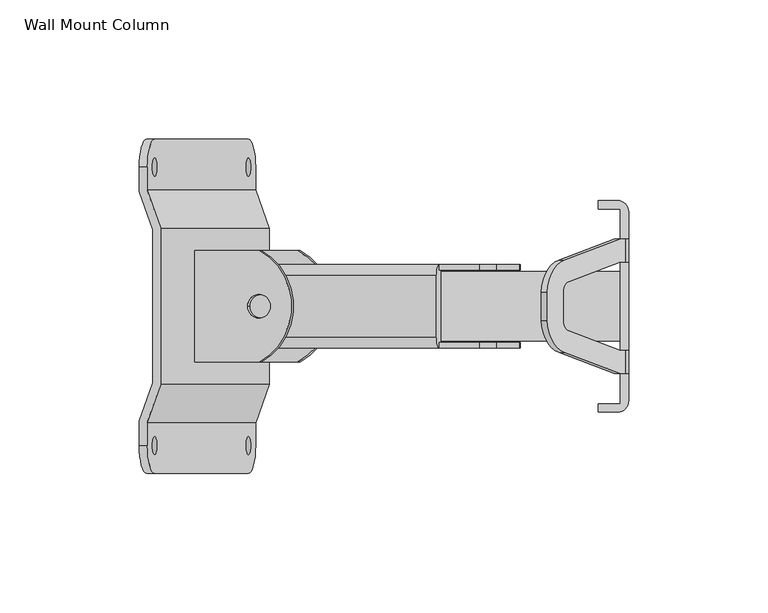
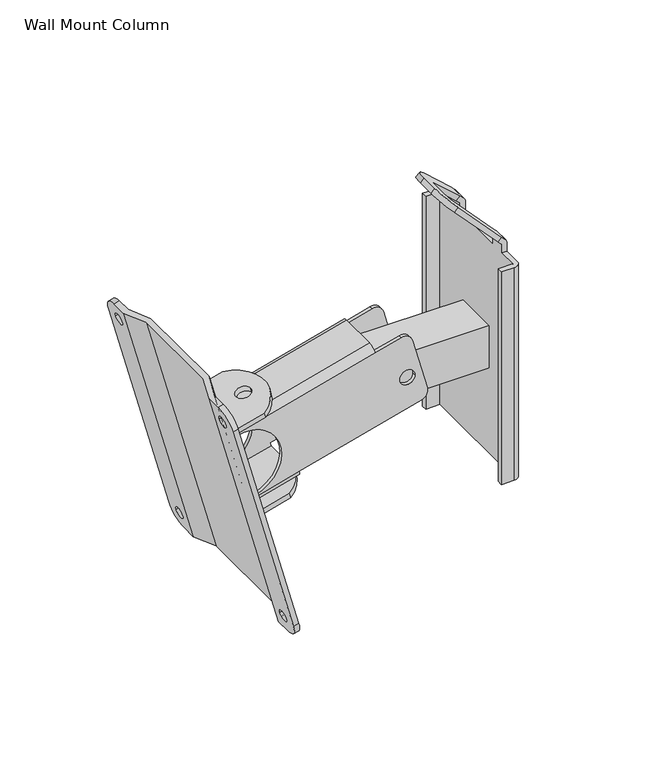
"""IFC4 building model written with IfcOpenShell, lengths in millimetres: proxy geometry, d&b xC-Series Wall Mount Column : Wall Mount Column."""

from ifc_helpers import new_model, si_unit, point, frame, frame_2d, origin, place, context, project, spatial, polyline, circle_curve, trimmed, segment, composite_curve, outline, extrude, source, transform, mapped, element, save
from ifc_brep_helpers import plane_surface, cylinder_surface, revolved_surface, advanced_brep


def wall_mount_column_0cf47434(model_context):
    return source(origin(), model_context, "Body", "SolidModel", [
        advanced_brep(
        [(7.4271108, 13.0, -16.1272448), (10.9626447, 13.0, -10.0035205), (2.6804352, 13.0, 20.906106), (-3.4432891, 13.0, 24.4416399), (-17.9321765, 13.0, 20.5593542), (-17.4145384, 13.0, 18.6275026), (-88.6563997, 13.0, -0.4616966), (-84.5946618, 13.0, -39.7491283), (-83.8182046, 13.0, -42.6469058), (-59.670059, 13.0, -36.1764296), (-60.1876971, 13.0, -34.244578), (4.2355947, 13.0, 0.0), (-4.2355947, 13.0, 0.0), (-84.3358427, 15.0, -40.7150541), (-84.5946618, 15.0, -39.7491283), (-94.9474236, 15.0, -1.1120952), (-95.2062426, 15.0, -0.1461694), (-17.9321765, 15.0, 20.5593542), (-3.4432891, 15.0, 24.4416399), (2.6804352, 15.0, 20.906106), (10.9626447, 15.0, -10.0035205), (7.4271108, 15.0, -16.1272448), (-60.1876971, 15.0, -34.244578), (4.2355947, 15.0, 0.0), (-4.2355947, 15.0, 0.0), (-94.9474236, 13.0, -1.1120952), (-84.5946618, -13.0, -39.7491283), (-88.6563997, -13.0, -0.4616966), (-17.4145384, -13.0, 18.6275026), (-17.9321765, -13.0, 20.5593542), (-3.4432891, -13.0, 24.4416399), (2.6804352, -13.0, 20.906106), (10.9626447, -13.0, -10.0035205), (7.4271108, -13.0, -16.1272448), (-60.1876971, -13.0, -34.244578), (-59.670059, -13.0, -36.1764296), (-83.8182046, -13.0, -42.6469058), (4.2355947, -13.0, 0.0), (-4.2355947, -13.0, 0.0), (7.4271108, -15.0, -16.1272448), (10.9626447, -15.0, -10.0035205), (2.6804352, -15.0, 20.906106), (-3.4432891, -15.0, 24.4416399), (-17.9321765, -15.0, 20.5593542), (-95.2062426, -15.0, -0.1461694), (-94.9474236, -15.0, -1.1120952), (-84.5946618, -15.0, -39.7491283), (-84.3358427, -15.0, -40.7150541), (-60.1876971, -15.0, -34.244578), (4.2355947, -15.0, 0.0), (-4.2355947, -15.0, 0.0), (-94.9474236, -13.0, -1.1120952), (-83.3005665, 11.0, -44.5787574), (-83.3005665, -11.0, -44.5787574), (-96.2415188, 11.0, 3.7175339), (-94.6886045, 13.0, -2.0780211), (-94.6886045, -13.0, -2.0780211), (-96.2415188, -11.0, 3.7175339), (-18.9674527, 11.0, 24.4230575), (-18.9674527, -11.0, 24.4230575), (-59.1524209, -11.0, -38.1082813), (-59.1524209, 11.0, -38.1082813)],
        [
            (0, 1, circle_curve(frame((6.1330155, 13.0, -11.2976157), z_axis=(0.0, -1.0, 0.0), x_axis=(-1.0, 0.0, 0.0)), 5.0)),
            (1, 2),
            (2, 3, circle_curve(frame((-2.1491939, 13.0, 19.6120107), z_axis=(0.0, -1.0, 0.0), x_axis=(-1.0, 0.0, 0.0)), 5.0)),
            (3, 4),
            (4, 5),
            (5, 6),
            (6, 7, circle_curve(frame((-89.7710427, 13.0, -20.4306118), z_axis=(0.0, 1.0, 0.0), x_axis=(-1.0, 0.0, 0.0)), 20.0)),
            (7, 8),
            (8, 9),
            (9, 10),
            (10, 0),
            (11, 12, circle_curve(frame((0.0, 13.0, 0.0), z_axis=(0.0, 1.0, 0.0), x_axis=(-1.0, 0.0, 0.0)), 4.2355947)),
            (12, 11, circle_curve(frame((0.0, 13.0, 0.0), z_axis=(0.0, 1.0, 0.0), x_axis=(-1.0, 0.0, 0.0)), 4.2355947)),
            (13, 14),
            (14, 15, circle_curve(frame((-89.7710427, 15.0, -20.4306118), z_axis=(0.0, -1.0, 0.0), x_axis=(-1.0, 0.0, 0.0)), 20.0)),
            (15, 16),
            (16, 17),
            (17, 18),
            (18, 19, circle_curve(frame((-2.1491939, 15.0, 19.6120107), z_axis=(0.0, 1.0, 0.0), x_axis=(-1.0, 0.0, 0.0)), 5.0)),
            (19, 20),
            (20, 21, circle_curve(frame((6.1330155, 15.0, -11.2976157), z_axis=(0.0, 1.0, 0.0), x_axis=(-1.0, 0.0, 0.0)), 5.0)),
            (21, 22),
            (22, 13),
            (23, 24, circle_curve(frame((0.0, 15.0, 0.0), z_axis=(0.0, -1.0, 0.0), x_axis=(-1.0, 0.0, 0.0)), 4.2355947)),
            (24, 23, circle_curve(frame((0.0, 15.0, 0.0), z_axis=(0.0, -1.0, 0.0), x_axis=(-1.0, 0.0, 0.0)), 4.2355947)),
            (21, 0),
            (10, 22),
            (20, 1),
            (19, 2),
            (18, 3),
            (17, 4),
            (14, 7),
            (6, 25, circle_curve(frame((-89.7710427, 13.0, -20.4306118), z_axis=(0.0, -1.0, 0.0), x_axis=(-1.0, 0.0, 0.0)), 20.0)),
            (25, 15),
            (26, 27, circle_curve(frame((-89.7710427, -13.0, -20.4306118), z_axis=(0.0, -1.0, 0.0), x_axis=(-1.0, 0.0, 0.0)), 20.0)),
            (27, 28),
            (28, 29),
            (29, 30),
            (30, 31, circle_curve(frame((-2.1491939, -13.0, 19.6120107), z_axis=(0.0, 1.0, 0.0), x_axis=(-1.0, 0.0, 0.0)), 5.0)),
            (31, 32),
            (32, 33, circle_curve(frame((6.1330155, -13.0, -11.2976157), z_axis=(0.0, 1.0, 0.0), x_axis=(-1.0, 0.0, 0.0)), 5.0)),
            (33, 34),
            (34, 35),
            (35, 36),
            (36, 26),
            (37, 38, circle_curve(frame((0.0, -13.0, 0.0), z_axis=(0.0, -1.0, 0.0), x_axis=(-1.0, 0.0, 0.0)), 4.2355947)),
            (38, 37, circle_curve(frame((0.0, -13.0, 0.0), z_axis=(0.0, -1.0, 0.0), x_axis=(-1.0, 0.0, 0.0)), 4.2355947)),
            (39, 40, circle_curve(frame((6.1330155, -15.0, -11.2976157), z_axis=(0.0, -1.0, 0.0), x_axis=(-1.0, 0.0, 0.0)), 5.0)),
            (40, 41),
            (41, 42, circle_curve(frame((-2.1491939, -15.0, 19.6120107), z_axis=(0.0, -1.0, 0.0), x_axis=(-1.0, 0.0, 0.0)), 5.0)),
            (42, 43),
            (43, 44),
            (44, 45),
            (45, 46, circle_curve(frame((-89.7710427, -15.0, -20.4306118), z_axis=(0.0, 1.0, 0.0), x_axis=(-1.0, 0.0, 0.0)), 20.0)),
            (46, 47),
            (47, 48),
            (48, 39),
            (49, 50, circle_curve(frame((0.0, -15.0, 0.0), z_axis=(0.0, 1.0, 0.0), x_axis=(-1.0, 0.0, 0.0)), 4.2355947)),
            (50, 49, circle_curve(frame((0.0, -15.0, 0.0), z_axis=(0.0, 1.0, 0.0), x_axis=(-1.0, 0.0, 0.0)), 4.2355947)),
            (33, 39),
            (48, 34),
            (32, 40),
            (31, 41),
            (30, 42),
            (29, 43),
            (45, 51),
            (51, 27, circle_curve(frame((-89.7710427, -13.0, -20.4306118), z_axis=(0.0, 1.0, 0.0), x_axis=(-1.0, 0.0, 0.0)), 20.0)),
            (26, 46),
            (36, 8),
            (13, 52, circle_curve(frame((-84.3358427, 11.0, -40.7150541), z_axis=(-0.9659258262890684, 0.0, -0.2588190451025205), x_axis=(0.0, -1.0, 0.0)), 4.0)),
            (52, 53),
            (53, 47, circle_curve(frame((-84.3358427, -11.0, -40.7150541), z_axis=(-0.9659258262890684, 0.0, -0.2588190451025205), x_axis=(0.0, -1.0, 0.0)), 4.0)),
            (11, 23),
            (24, 12),
            (37, 49),
            (50, 38),
            (54, 16, circle_curve(frame((-95.2062426, 11.0, -0.1461694), z_axis=(-0.9659258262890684, 0.0, -0.2588190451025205), x_axis=(0.0, -1.0, 0.0)), 4.0)),
            (25, 55),
            (55, 56),
            (56, 51),
            (44, 57, circle_curve(frame((-95.2062426, -11.0, -0.1461694), z_axis=(-0.9659258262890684, 0.0, -0.2588190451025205), x_axis=(0.0, -1.0, 0.0)), 4.0)),
            (57, 54),
            (58, 59),
            (59, 43, circle_curve(frame((-17.9321765, -11.0, 20.5593542), z_axis=(0.9659258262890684, 0.0, 0.2588190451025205), x_axis=(0.0, -1.0, 0.0)), 4.0)),
            (28, 5),
            (17, 58, circle_curve(frame((-17.9321765, 11.0, 20.5593542), z_axis=(0.9659258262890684, 0.0, 0.2588190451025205), x_axis=(0.0, -1.0, 0.0)), 4.0)),
            (57, 59),
            (58, 54),
            (56, 27),
            (55, 6),
            (48, 60, circle_curve(frame((-60.1876971, -11.0, -34.244578), z_axis=(0.9659258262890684, 0.0, 0.2588190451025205), x_axis=(0.0, -1.0, 0.0)), 4.0)),
            (60, 61),
            (61, 22, circle_curve(frame((-60.1876971, 11.0, -34.244578), z_axis=(0.9659258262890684, 0.0, 0.2588190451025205), x_axis=(0.0, -1.0, 0.0)), 4.0)),
            (9, 35),
            (53, 60),
            (52, 61),
        ],
        [
            plane_surface(frame((7.4271108, 13.0, -16.1272448), z_axis=(0.0, -1.0000000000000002, 0.0), x_axis=(0.9659258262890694, 0.0, 0.25881904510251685))),
            plane_surface(frame((7.4271108, 15.0, -16.1272448), z_axis=(0.0, 1.0000000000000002, 0.0), x_axis=(-0.9659258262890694, 0.0, -0.25881904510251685))),
            plane_surface(frame((-84.3358427, 13.0, -40.7150541), z_axis=(0.25881904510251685, 0.0, -0.9659258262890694), x_axis=(0.0, 1.0, 0.0))),
            cylinder_surface(frame((6.1330155, 15.0, -11.2976157), z_axis=(0.0, -1.0, 0.0), x_axis=(-1.0, 0.0, 0.0)), 5.0),
            plane_surface(frame((10.9626447, 13.0, -10.0035205), z_axis=(0.965925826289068, 0.0, 0.25881904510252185), x_axis=(0.0, 1.0, 0.0))),
            cylinder_surface(frame((-2.1491939, 15.0, 19.6120107), z_axis=(0.0, -1.0, 0.0), x_axis=(-1.0, 0.0, 0.0)), 5.0),
            plane_surface(frame((-3.4432891, 13.0, 24.4416399), z_axis=(-0.25881904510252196, 0.0, 0.9659258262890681), x_axis=(0.0, 1.0, 0.0))),
            revolved_surface(polyline([(-109.7710427, 15.0, -20.4306118), (-109.7710427, 13.0, -20.4306118)]), (-89.7710427, 15.0, -20.4306118), (0.0, 1.0, 0.0)),
            plane_surface(frame((-84.3358427, -13.0, -40.7150541), z_axis=(0.0, 1.0000000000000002, 0.0), x_axis=(-0.2588190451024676, 0.0, 0.9659258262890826))),
            plane_surface(frame((-84.3358427, -15.0, -40.7150541), z_axis=(0.0, -1.0000000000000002, 0.0), x_axis=(0.2588190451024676, 0.0, -0.9659258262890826))),
            plane_surface(frame((7.4271108, -13.0, -16.1272448), z_axis=(0.2588190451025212, 0.0, -0.9659258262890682), x_axis=(0.0, -1.0, 0.0))),
            cylinder_surface(frame((6.1330155, -15.0, -11.2976157), z_axis=(0.0, 1.0, 0.0), x_axis=(-1.0, 0.0, 0.0)), 5.0),
            plane_surface(frame((2.6804352, -13.0, 20.906106), z_axis=(0.9659258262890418, 0.0, 0.25881904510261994), x_axis=(0.0, -1.0, 0.0))),
            cylinder_surface(frame((-2.1491939, -15.0, 19.6120107), z_axis=(0.0, 1.0, 0.0), x_axis=(-1.0, 0.0, 0.0)), 5.0),
            plane_surface(frame((-95.2062426, -13.0, -0.1461694), z_axis=(-0.2588190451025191, 0.0, 0.9659258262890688), x_axis=(0.0, -1.0, 0.0))),
            revolved_surface(polyline([(-109.7710427, -15.0, -20.4306118), (-109.7710427, -13.0, -20.4306118)]), (-89.7710427, -15.0, -20.4306118), (0.0, -1.0, 0.0)),
            plane_surface(frame((-84.3358427, -13.0, -40.7150541), z_axis=(-0.9659258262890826, 0.0, -0.2588190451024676), x_axis=(0.0, -1.0, 0.0))),
            revolved_surface(polyline([(-4.2355947, 15.0, 0.0), (-4.2355947, 13.0, 0.0)]), (0.0, 0.0, 0.0), (0.0, 1.0, 0.0)),
            revolved_surface(polyline([(-4.2355947, -15.0, 0.0), (-4.2355947, -13.0, 0.0)]), (0.0, 0.0, 0.0), (0.0, -1.0, 0.0)),
            plane_surface(frame((-96.2415188, -11.0, 3.7175339), z_axis=(-0.9659258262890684, 0.0, -0.2588190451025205), x_axis=(0.0, 1.0, 0.0))),
            plane_surface(frame((-18.9674527, -11.0, 24.4230575), z_axis=(0.9659258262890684, 0.0, 0.2588190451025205), x_axis=(0.0, -1.0, 0.0))),
            plane_surface(frame((-18.9674527, 11.0, 24.4230575), z_axis=(-0.2588190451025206, 0.0, 0.9659258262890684), x_axis=(-0.9659258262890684, 0.0, -0.2588190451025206))),
            cylinder_surface(frame((-95.2062426, -11.0, -0.1461694), z_axis=(0.9659258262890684, 0.0, 0.2588190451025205), x_axis=(0.0, -1.0, 0.0)), 4.0),
            plane_surface(frame((-17.9321765, -13.0, 20.5593542), z_axis=(0.0, -1.0000000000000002, 0.0), x_axis=(-0.9659258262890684, 0.0, -0.25881904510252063))),
            plane_surface(frame((-17.4145384, -13.0, 18.6275026), z_axis=(0.2588190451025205, 0.0, -0.9659258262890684), x_axis=(-0.9659258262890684, 0.0, -0.2588190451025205))),
            plane_surface(frame((-17.4145384, 13.0, 18.6275026), z_axis=(0.0, 1.0000000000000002, 0.0), x_axis=(-0.9659258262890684, 0.0, -0.2588190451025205))),
            cylinder_surface(frame((-95.2062426, 11.0, -0.1461694), z_axis=(0.9659258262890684, 0.0, 0.2588190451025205), x_axis=(0.0, -1.0, 0.0)), 4.0),
            plane_surface(frame((-60.1876971, -13.0, -34.244578), z_axis=(0.9659258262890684, 0.0, 0.2588190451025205), x_axis=(-0.2588190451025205, 0.0, 0.9659258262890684))),
            cylinder_surface(frame((-84.3358427, -11.0, -40.7150541), z_axis=(0.9659258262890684, 0.0, 0.2588190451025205), x_axis=(0.0, -1.0, 0.0)), 4.0),
            plane_surface(frame((-59.1524209, -11.0, -38.1082813), z_axis=(0.2588190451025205, 0.0, -0.9659258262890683), x_axis=(-0.9659258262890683, 0.0, -0.2588190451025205))),
            cylinder_surface(frame((-84.3358427, 11.0, -40.7150541), z_axis=(0.9659258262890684, 0.0, 0.2588190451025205), x_axis=(0.0, -1.0, 0.0)), 4.0),
            plane_surface(frame((-59.670059, 13.0, -36.1764296), z_axis=(-0.2588190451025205, 0.0, 0.9659258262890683), x_axis=(-0.9659258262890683, 0.0, -0.2588190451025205))),
        ],
        [
            (0, [[1, 2, 3, 4, 5, 6, 7, 8, 9, 10, 11], [12, 13]]),
            (1, [[14, 15, 16, 17, 18, 19, 20, 21, 22, 23], [24, 25]]),
            (2, [[26, -11, 27, -22]]),
            (3, [[-1, -26, -21, 28]]),
            (4, [[-2, -28, -20, 29]]),
            (5, [[-3, -29, -19, 30]]),
            (6, [[-30, -18, 31, -4]]),
            (7, [[-15, 32, -7, 33, 34]]),
            (8, [[35, 36, 37, 38, 39, 40, 41, 42, 43, 44, 45], [46, 47]]),
            (9, [[48, 49, 50, 51, 52, 53, 54, 55, 56, 57], [58, 59]]),
            (10, [[60, -57, 61, -42]]),
            (11, [[-41, 62, -48, -60]]),
            (12, [[-40, 63, -49, -62]]),
            (13, [[-39, 64, -50, -63]]),
            (14, [[-64, -38, 65, -51]]),
            (15, [[-54, 66, 67, -35, 68]]),
            (16, [[-45, 69, -8, -32, -14, 70, 71, 72, -55, -68]]),
            (17, [[-12, 73, -25, 74]]),
            (17, [[-13, -74, -24, -73]]),
            (18, [[-46, 75, -59, 76]]),
            (18, [[-47, -76, -58, -75]]),
            (19, [[77, -16, -34, 78, 79, 80, -66, -53, 81, 82]]),
            (20, [[83, 84, -65, -37, 85, -5, -31, 86]]),
            (21, [[-82, 87, -83, 88]]),
            (22, [[-81, -52, -84, -87]]),
            (23, [[-80, 89, -67]]),
            (24, [[-79, 90, -6, -85, -36, -89]]),
            (25, [[-78, -33, -90]]),
            (26, [[-77, -88, -86, -17]]),
            (27, [[-43, -61, 91, 92, 93, -27, -10, 94]]),
            (28, [[-91, -56, -72, 95]]),
            (29, [[-92, -95, -71, 96]]),
            (30, [[-93, -96, -70, -23]]),
            (31, [[-94, -9, -69, -44]]),
        ],
    ),
        extrude(outline(composite_curve([segment(polyline([(40.0, 0.0), (40.0, -24.0)]), True, "CONTINUOUS"), segment(trimmed(circle_curve(frame_2d((20.0, -13.5043359)), 22.5866989), [point((40.0, -24.0))], [point((0.0, -24.0))], False, "CARTESIAN"), True, "CONTINUOUS"), segment(polyline([(0.0, -24.0), (0.0, 0.0), (40.0, 0.0)]), True, "CONTINUOUS")], self_intersect=False), holes=[composite_curve([segment(trimmed(circle_curve(frame_2d((20.0, -24.0)), 4.2033528), [point((20.0, -28.2033527))], [point((20.0, -19.7966472))], True, "CARTESIAN"), True, "CONTINUOUS"), segment(trimmed(circle_curve(frame_2d((20.0, -24.0)), 4.2033528), [point((20.0, -19.7966472))], [point((20.0, -28.2033527))], True, "CARTESIAN"), True, "CONTINUOUS")], self_intersect=False)]), frame((-91.0880323, -20.0, -50.2888692), z_axis=(-0.2588190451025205, 0.0, 0.9659258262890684), x_axis=(0.0, 1.0, 0.0)), (0.0, 0.0, 1.0), 3.0),
        advanced_brep(
        [(-120.773581, -27.5, 48.9079967), (-125.6032101, -41.2373871, 47.6139014), (-125.6032101, -50.0, 47.6139014), (-122.7054326, -50.0, 48.3903586), (-122.7054326, -41.766368, 48.3903586), (-117.8758035, -28.0289809, 49.6844538), (-117.8758035, 28.0289809, 49.6844538), (-122.7054326, 41.766368, 48.3903586), (-122.7054326, 50.0, 48.3903586), (-125.6032101, 50.0, 47.6139014), (-125.6032101, 41.2373871, 47.6139014), (-120.773581, 27.5, 48.9079967), (-81.9507242, -27.5, -95.9808773), (-81.9507242, 27.5, -95.9808773), (-86.7803533, 41.2373871, -97.2749725), (-86.7803533, 50.0, -97.2749725), (-83.8825759, 50.0, -96.4985154), (-83.8825759, 41.766368, -96.4985154), (-79.0529467, 28.0289809, -95.2044201), (-79.0529467, -28.0289809, -95.2044201), (-83.8825759, -41.766368, -96.4985154), (-83.8825759, -50.0, -96.4985154), (-86.7803533, -50.0, -97.2749725), (-86.7803533, -41.2373871, -97.2749725), (-89.3685438, -60.0, -87.6157142), (-123.0150197, -60.0, 37.9546432), (-123.0150197, -46.75, 37.9546432), (-123.0150197, -53.25, 37.9546432), (-89.3685438, -46.75, -87.6157142), (-89.3685438, -53.25, -87.6157142), (-86.4707663, -60.0, -86.8392571), (-120.1172422, -60.0, 38.7311003), (-120.1172422, -53.25, 38.7311003), (-120.1172422, -46.75, 38.7311003), (-86.4707663, -53.25, -86.8392571), (-86.4707663, -46.75, -86.8392571), (-86.4707663, 60.0, -86.8392571), (-120.1172422, 60.0, 38.7311003), (-120.1172422, 46.75, 38.7311003), (-120.1172422, 53.25, 38.7311003), (-86.4707663, 46.75, -86.8392571), (-86.4707663, 53.25, -86.8392571), (-89.3685438, 60.0, -87.6157142), (-123.0150197, 60.0, 37.9546432), (-123.0150197, 53.25, 37.9546432), (-123.0150197, 46.75, 37.9546432), (-89.3685438, 53.25, -87.6157142), (-89.3685438, 46.75, -87.6157142)],
        [
            (0, 1),
            (1, 2),
            (2, 3),
            (3, 4),
            (4, 5),
            (5, 6),
            (6, 7),
            (7, 8),
            (8, 9),
            (9, 10),
            (10, 11),
            (11, 0),
            (12, 13),
            (13, 14),
            (14, 15),
            (15, 16),
            (16, 17),
            (17, 18),
            (18, 19),
            (19, 20),
            (20, 21),
            (21, 22),
            (22, 23),
            (23, 12),
            (0, 12),
            (23, 1),
            (22, 24, circle_curve(frame((-89.3685438, -50.0, -87.6157142), z_axis=(-0.9659258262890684, 0.0, -0.2588190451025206), x_axis=(0.0, 1.0, 0.0)), 10.0)),
            (24, 25),
            (25, 2, circle_curve(frame((-123.0150197, -50.0, 37.9546432), z_axis=(-0.9659258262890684, 0.0, -0.2588190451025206), x_axis=(0.0, 1.0, 0.0)), 10.0)),
            (26, 27, circle_curve(frame((-123.0150197, -50.0, 37.9546432), z_axis=(0.9659258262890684, 0.0, 0.2588190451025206), x_axis=(0.0, 1.0, 0.0)), 3.25)),
            (27, 26, circle_curve(frame((-123.0150197, -50.0, 37.9546432), z_axis=(0.9659258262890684, 0.0, 0.2588190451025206), x_axis=(0.0, 1.0, 0.0)), 3.25)),
            (28, 29, circle_curve(frame((-89.3685438, -50.0, -87.6157142), z_axis=(0.9659258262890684, 0.0, 0.2588190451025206), x_axis=(0.0, 1.0, 0.0)), 3.25)),
            (29, 28, circle_curve(frame((-89.3685438, -50.0, -87.6157142), z_axis=(0.9659258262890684, 0.0, 0.2588190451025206), x_axis=(0.0, 1.0, 0.0)), 3.25)),
            (24, 30),
            (30, 31),
            (31, 25),
            (20, 4),
            (3, 31, circle_curve(frame((-120.1172422, -50.0, 38.7311003), z_axis=(0.9659258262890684, 0.0, 0.2588190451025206), x_axis=(0.0, 1.0, 0.0)), 10.0)),
            (30, 21, circle_curve(frame((-86.4707663, -50.0, -86.8392571), z_axis=(0.9659258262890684, 0.0, 0.2588190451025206), x_axis=(0.0, 1.0, 0.0)), 10.0)),
            (32, 33, circle_curve(frame((-120.1172422, -50.0, 38.7311003), z_axis=(-0.9659258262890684, 0.0, -0.2588190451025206), x_axis=(0.0, 1.0, 0.0)), 3.25)),
            (33, 32, circle_curve(frame((-120.1172422, -50.0, 38.7311003), z_axis=(-0.9659258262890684, 0.0, -0.2588190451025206), x_axis=(0.0, 1.0, 0.0)), 3.25)),
            (34, 35, circle_curve(frame((-86.4707663, -50.0, -86.8392571), z_axis=(-0.9659258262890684, 0.0, -0.2588190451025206), x_axis=(0.0, 1.0, 0.0)), 3.25)),
            (35, 34, circle_curve(frame((-86.4707663, -50.0, -86.8392571), z_axis=(-0.9659258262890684, 0.0, -0.2588190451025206), x_axis=(0.0, 1.0, 0.0)), 3.25)),
            (19, 5),
            (18, 6),
            (17, 7),
            (16, 36, circle_curve(frame((-86.4707663, 50.0, -86.8392571), z_axis=(0.9659258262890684, 0.0, 0.2588190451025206), x_axis=(0.0, 1.0, 0.0)), 10.0)),
            (36, 37),
            (37, 8, circle_curve(frame((-120.1172422, 50.0, 38.7311003), z_axis=(0.9659258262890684, 0.0, 0.2588190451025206), x_axis=(0.0, 1.0, 0.0)), 10.0)),
            (38, 39, circle_curve(frame((-120.1172422, 50.0, 38.7311003), z_axis=(-0.9659258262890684, 0.0, -0.2588190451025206), x_axis=(0.0, 1.0, 0.0)), 3.25)),
            (39, 38, circle_curve(frame((-120.1172422, 50.0, 38.7311003), z_axis=(-0.9659258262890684, 0.0, -0.2588190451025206), x_axis=(0.0, 1.0, 0.0)), 3.25)),
            (40, 41, circle_curve(frame((-86.4707663, 50.0, -86.8392571), z_axis=(-0.9659258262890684, 0.0, -0.2588190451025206), x_axis=(0.0, 1.0, 0.0)), 3.25)),
            (41, 40, circle_curve(frame((-86.4707663, 50.0, -86.8392571), z_axis=(-0.9659258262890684, 0.0, -0.2588190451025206), x_axis=(0.0, 1.0, 0.0)), 3.25)),
            (36, 42),
            (42, 43),
            (43, 37),
            (14, 10),
            (9, 43, circle_curve(frame((-123.0150197, 50.0, 37.9546432), z_axis=(-0.9659258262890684, 0.0, -0.2588190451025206), x_axis=(0.0, 1.0, 0.0)), 10.0)),
            (42, 15, circle_curve(frame((-89.3685438, 50.0, -87.6157142), z_axis=(-0.9659258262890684, 0.0, -0.2588190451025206), x_axis=(0.0, 1.0, 0.0)), 10.0)),
            (44, 45, circle_curve(frame((-123.0150197, 50.0, 37.9546432), z_axis=(0.9659258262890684, 0.0, 0.2588190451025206), x_axis=(0.0, 1.0, 0.0)), 3.25)),
            (45, 44, circle_curve(frame((-123.0150197, 50.0, 37.9546432), z_axis=(0.9659258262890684, 0.0, 0.2588190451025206), x_axis=(0.0, 1.0, 0.0)), 3.25)),
            (46, 47, circle_curve(frame((-89.3685438, 50.0, -87.6157142), z_axis=(0.9659258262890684, 0.0, 0.2588190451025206), x_axis=(0.0, 1.0, 0.0)), 3.25)),
            (47, 46, circle_curve(frame((-89.3685438, 50.0, -87.6157142), z_axis=(0.9659258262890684, 0.0, 0.2588190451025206), x_axis=(0.0, 1.0, 0.0)), 3.25)),
            (13, 11),
            (32, 27),
            (26, 33),
            (38, 45),
            (44, 39),
            (34, 29),
            (28, 35),
            (40, 47),
            (46, 41),
        ],
        [
            plane_surface(frame((-120.773581, -27.5, 48.9079967), z_axis=(-0.2588190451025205, 0.0, 0.9659258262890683), x_axis=(-0.33036608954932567, -0.9396926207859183, -0.0885213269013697))),
            plane_surface(frame((-81.9507242, -27.5, -95.9808773), z_axis=(0.2588190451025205, 0.0, -0.9659258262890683), x_axis=(0.33036608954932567, 0.9396926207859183, 0.0885213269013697))),
            plane_surface(frame((-120.773581, -27.5, 48.9079967), z_axis=(-0.9076733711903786, 0.3420201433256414, -0.2432103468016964), x_axis=(0.2588190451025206, 0.0, -0.9659258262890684))),
            plane_surface(frame((-125.6032101, -41.2373871, 47.6139014), z_axis=(-0.9659258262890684, 0.0, -0.2588190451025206), x_axis=(0.2588190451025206, 0.0, -0.9659258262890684))),
            plane_surface(frame((-125.6032101, -60.0, 47.6139014), z_axis=(0.0, -1.0000000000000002, 0.0), x_axis=(0.2588190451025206, 0.0, -0.9659258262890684))),
            plane_surface(frame((-122.7054326, -60.0, 48.3903586), z_axis=(0.9659258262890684, 0.0, 0.2588190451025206), x_axis=(0.2588190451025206, 0.0, -0.9659258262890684))),
            plane_surface(frame((-122.7054326, -41.766368, 48.3903586), z_axis=(0.9076733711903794, -0.342020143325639, 0.24321034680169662), x_axis=(0.2588190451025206, 0.0, -0.9659258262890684))),
            plane_surface(frame((-117.8758035, -28.0289809, 49.6844538), z_axis=(0.9659258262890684, 0.0, 0.2588190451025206), x_axis=(0.2588190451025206, 0.0, -0.9659258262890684))),
            plane_surface(frame((-117.8758035, 28.0289809, 49.6844538), z_axis=(0.9076733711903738, 0.3420201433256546, 0.24321034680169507), x_axis=(0.2588190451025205, 0.0, -0.9659258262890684))),
            plane_surface(frame((-122.7054326, 41.766368, 48.3903586), z_axis=(0.9659258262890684, 0.0, 0.25881904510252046), x_axis=(0.25881904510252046, 0.0, -0.9659258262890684))),
            plane_surface(frame((-122.7054326, 60.0, 48.3903586), z_axis=(0.0, 1.0000000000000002, 0.0), x_axis=(0.2588190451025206, 0.0, -0.9659258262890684))),
            plane_surface(frame((-125.6032101, 60.0, 47.6139014), z_axis=(-0.9659258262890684, 0.0, -0.2588190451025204), x_axis=(0.2588190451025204, 0.0, -0.9659258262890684))),
            plane_surface(frame((-125.6032101, 41.2373871, 47.6139014), z_axis=(-0.9076733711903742, -0.3420201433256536, -0.24321034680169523), x_axis=(0.2588190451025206, 0.0, -0.9659258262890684))),
            plane_surface(frame((-120.773581, 27.5, 48.9079967), z_axis=(-0.9659258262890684, 0.0, -0.2588190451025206), x_axis=(0.2588190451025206, 0.0, -0.9659258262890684))),
            cylinder_surface(frame((-105.6283548, -50.0, 42.613386), z_axis=(0.9659258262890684, 0.0, 0.2588190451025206), x_axis=(0.0, 1.0, 0.0)), 10.0),
            cylinder_surface(frame((-120.1172422, 50.0, 38.7311003), z_axis=(0.9659258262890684, 0.0, 0.2588190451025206), x_axis=(0.0, 1.0, 0.0)), 10.0),
            cylinder_surface(frame((-86.4707663, -50.0, -86.8392571), z_axis=(0.9659258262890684, 0.0, 0.2588190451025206), x_axis=(0.0, 1.0, 0.0)), 10.0),
            cylinder_surface(frame((-86.4707663, 50.0, -86.8392571), z_axis=(0.9659258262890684, 0.0, 0.2588190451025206), x_axis=(0.0, 1.0, 0.0)), 10.0),
            revolved_surface(polyline([(-123.01501968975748, -46.75, 37.9546431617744), (-120.1172422, -46.75, 38.7311003)]), (-120.1172422, -50.0, 38.7311003), (-0.9659258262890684, 0.0, -0.2588190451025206)),
            revolved_surface(polyline([(-123.01501968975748, 53.25, 37.9546431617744), (-120.1172422, 53.25, 38.7311003)]), (-120.1172422, 50.0, 38.7311003), (-0.9659258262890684, 0.0, -0.2588190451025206)),
            revolved_surface(polyline([(-89.36854378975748, -46.75, -87.6157142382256), (-86.4707663, -46.75, -86.8392571)]), (-86.4707663, -50.0, -86.8392571), (-0.9659258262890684, 0.0, -0.2588190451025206)),
            revolved_surface(polyline([(-89.36854378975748, 53.25, -87.6157142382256), (-86.4707663, 53.25, -86.8392571)]), (-86.4707663, 50.0, -86.8392571), (-0.9659258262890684, 0.0, -0.2588190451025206)),
        ],
        [
            (0, [[1, 2, 3, 4, 5, 6, 7, 8, 9, 10, 11, 12]]),
            (1, [[13, 14, 15, 16, 17, 18, 19, 20, 21, 22, 23, 24]]),
            (2, [[-1, 25, -24, 26]]),
            (3, [[-26, -23, 27, 28, 29, -2], [30, 31], [32, 33]]),
            (4, [[-28, 34, 35, 36]]),
            (5, [[37, -4, 38, -35, 39, -21], [40, 41], [42, 43]]),
            (6, [[-5, -37, -20, 44]]),
            (7, [[-6, -44, -19, 45]]),
            (8, [[-7, -45, -18, 46]]),
            (9, [[-46, -17, 47, 48, 49, -8], [50, 51], [52, 53]]),
            (10, [[-48, 54, 55, 56]]),
            (11, [[57, -10, 58, -55, 59, -15], [60, 61], [62, 63]]),
            (12, [[-11, -57, -14, 64]]),
            (13, [[-12, -64, -13, -25]]),
            (14, [[-3, -29, -36, -38]]),
            (15, [[-9, -49, -56, -58]]),
            (16, [[-22, -39, -34, -27]]),
            (17, [[-16, -59, -54, -47]]),
            (18, [[65, -30, 66, -40]]),
            (18, [[-65, -41, -66, -31]]),
            (19, [[67, -60, 68, -50]]),
            (19, [[-67, -51, -68, -61]]),
            (20, [[69, -32, 70, -42]]),
            (20, [[-69, -43, -70, -33]]),
            (21, [[71, -62, 72, -52]]),
            (21, [[-71, -53, -72, -63]]),
        ],
    ),
        extrude(outline(composite_curve([segment(polyline([(40.0, 0.0), (40.0, -24.0000001)]), True, "CONTINUOUS"), segment(trimmed(circle_curve(frame_2d((20.0, -13.5043359)), 22.5866989), [point((40.0, -24.0000001))], [point((0.0, -24.0000001))], False, "CARTESIAN"), True, "CONTINUOUS"), segment(polyline([(0.0, -24.0000001), (0.0, 0.0), (40.0, 0.0)]), True, "CONTINUOUS")], self_intersect=False), holes=[composite_curve([segment(trimmed(circle_curve(frame_2d((20.0, -24.0000001)), 4.2033528), [point((20.0, -28.2033528))], [point((20.0, -19.7966473))], True, "CARTESIAN"), True, "CONTINUOUS"), segment(trimmed(circle_curve(frame_2d((20.0, -24.0000001)), 4.2033528), [point((20.0, -19.7966473))], [point((20.0, -28.2033528))], True, "CARTESIAN"), True, "CONTINUOUS")], self_intersect=False)]), frame((-105.0642608, -20.0, 1.8711254), z_axis=(-0.2588190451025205, 0.0, 0.9659258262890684), x_axis=(0.0, 1.0, 0.0)), (0.0, 0.0, 1.0), 3.0),
        advanced_brep(
        [(44.8686292, -24.1923439, 69.3813708), (25.0048577, -16.6652184, 89.2451423), (18.7157288, -5.0741084, 95.5342712), (18.7157288, 5.0741084, 95.5342712), (25.0048577, 16.6652184, 89.2451423), (44.8686292, 24.1923439, 69.3813708), (47.0, 24.1923439, 67.25), (47.0, 15.9101345, 67.25), (44.8686292, 15.9101345, 69.3813708), (26.4689593, 8.9378118, 87.7810407), (24.372583, 5.0741084, 89.877417), (24.372583, -5.0741084, 89.877417), (26.4689593, -8.9378118, 87.7810407), (44.8686292, -15.9101345, 69.3813708), (47.0, -15.9101345, 67.25), (47.0, -24.1923439, 67.25), (46.9899495, -15.9101345, 71.5026912), (28.5902797, -8.9378118, 89.902361), (26.4939033, -5.0741084, 91.9987373), (26.4939033, 5.0741084, 91.9987373), (28.5902797, 8.9378118, 89.902361), (46.9899495, 15.9101345, 71.5026912), (48.8284271, 15.9101345, 69.6642136), (48.8284271, 24.1923439, 69.6642136), (46.9899495, 24.1923439, 71.5026912), (27.126178, 16.6652184, 91.3664626), (20.8370491, 5.0741084, 97.6555916), (20.8370491, -5.0741084, 97.6555916), (27.126178, -16.6652184, 91.3664626), (46.9899495, -24.1923439, 71.5026912), (48.8284271, -24.1923439, 69.6642136), (48.8284271, -15.9101345, 69.6642136), (50.0, 15.9101345, 66.8357864), (47.0, 15.9101345, 62.25), (50.0, 15.9101345, 62.25), (50.0, 24.1923439, 66.8357864), (50.0, 24.1923439, 62.25), (47.0, 24.1923439, 62.25), (50.0, -15.9101345, 62.25), (50.0, -15.9101345, 66.8357864), (50.0, -24.1923439, 66.8357864), (50.0, -24.1923439, 62.25), (50.0, -34.0, 62.25), (50.0, -34.0, -62.75), (50.0, 34.0, -62.75), (50.0, 34.0, 62.25), (47.0, 35.0, 62.25), (47.0, 35.0, -62.75), (47.0, -35.0, -62.75), (47.0, -35.0, 62.25), (47.0, -24.1923439, 62.25), (47.0, -15.9101345, 62.25), (39.0, 38.0, 62.25), (39.0, 35.0, 62.25), (46.0, 38.0, 62.25), (39.0, -35.0, 62.25), (39.0, -38.0, 62.25), (46.0, -38.0, 62.25), (39.0, 38.0, -62.75), (46.0, 38.0, -62.75), (46.0, -38.0, -62.75), (39.0, -38.0, -62.75), (39.0, -35.0, -62.75), (39.0, 35.0, -62.75)],
        [
            (0, 1),
            (1, 2, circle_curve(frame((27.2010101, -5.0741084, 87.0489899), z_axis=(-0.7071067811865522, 0.0, -0.707106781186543), x_axis=(-0.707106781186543, 0.0, 0.7071067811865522)), 12.0)),
            (2, 3),
            (3, 4, circle_curve(frame((27.2010101, 5.0741084, 87.0489899), z_axis=(-0.7071067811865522, 0.0, -0.707106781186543), x_axis=(-0.707106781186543, 0.0, 0.7071067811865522)), 12.0)),
            (4, 5),
            (5, 6),
            (6, 7),
            (7, 8),
            (8, 9),
            (9, 10, circle_curve(frame((27.2010101, 5.0741084, 87.0489899), z_axis=(0.7071067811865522, 0.0, 0.707106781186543), x_axis=(-0.707106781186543, 0.0, 0.7071067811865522)), 4.0)),
            (10, 11),
            (11, 12, circle_curve(frame((27.2010101, -5.0741084, 87.0489899), z_axis=(0.7071067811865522, 0.0, 0.707106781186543), x_axis=(-0.707106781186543, 0.0, 0.7071067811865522)), 4.0)),
            (12, 13),
            (13, 14),
            (14, 15),
            (15, 0),
            (16, 17),
            (17, 18, circle_curve(frame((29.3223305, -5.0741084, 89.1703102), z_axis=(-0.7071067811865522, 0.0, -0.707106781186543), x_axis=(-0.707106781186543, 0.0, 0.7071067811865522)), 4.0)),
            (18, 19),
            (19, 20, circle_curve(frame((29.3223305, 5.0741084, 89.1703102), z_axis=(-0.7071067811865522, 0.0, -0.707106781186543), x_axis=(-0.707106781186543, 0.0, 0.7071067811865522)), 4.0)),
            (20, 21),
            (21, 22),
            (22, 23),
            (23, 24),
            (24, 25),
            (25, 26, circle_curve(frame((29.3223305, 5.0741084, 89.1703102), z_axis=(0.7071067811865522, 0.0, 0.707106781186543), x_axis=(-0.707106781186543, 0.0, 0.7071067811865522)), 12.0)),
            (26, 27),
            (27, 28, circle_curve(frame((29.3223305, -5.0741084, 89.1703102), z_axis=(0.7071067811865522, 0.0, 0.707106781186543), x_axis=(-0.707106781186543, 0.0, 0.7071067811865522)), 12.0)),
            (28, 29),
            (29, 30),
            (30, 31),
            (31, 16),
            (12, 17),
            (16, 13),
            (11, 18),
            (10, 19),
            (9, 20),
            (8, 21),
            (4, 25),
            (24, 5),
            (3, 26),
            (2, 27),
            (1, 28),
            (0, 29),
            (32, 22, circle_curve(frame((46.0, 15.9101345, 66.8357864), z_axis=(0.0, -1.0, 0.0), x_axis=(1.0, 0.0, 0.0)), 4.0)),
            (7, 33),
            (33, 34),
            (34, 32),
            (35, 36),
            (36, 37),
            (37, 6),
            (23, 35, circle_curve(frame((46.0, 24.1923439, 66.8357864), z_axis=(0.0, 1.0, 0.0), x_axis=(1.0, 0.0, 0.0)), 4.0)),
            (34, 38),
            (38, 39),
            (39, 40),
            (40, 41),
            (41, 42),
            (42, 43),
            (43, 44),
            (44, 45),
            (45, 36),
            (35, 32),
            (37, 46),
            (46, 47),
            (47, 48),
            (48, 49),
            (49, 50),
            (50, 15),
            (14, 51),
            (51, 33),
            (40, 30, circle_curve(frame((46.0, -24.1923439, 66.8357864), z_axis=(0.0, -1.0, 0.0), x_axis=(1.0, 0.0, 0.0)), 4.0)),
            (50, 41),
            (38, 51),
            (31, 39, circle_curve(frame((46.0, -15.9101345, 66.8357864), z_axis=(0.0, 1.0, 0.0), x_axis=(1.0, 0.0, 0.0)), 4.0)),
            (52, 53),
            (53, 46),
            (45, 54, circle_curve(frame((46.0, 34.0, 62.25), z_axis=(0.0, 0.0, 1.0), x_axis=(1.0, 0.0, 0.0)), 4.0)),
            (54, 52),
            (49, 55),
            (55, 56),
            (56, 57),
            (57, 42, circle_curve(frame((46.0, -34.0, 62.25), z_axis=(0.0, 0.0, 1.0), x_axis=(1.0, 0.0, 0.0)), 4.0)),
            (58, 59),
            (59, 44, circle_curve(frame((46.0, 34.0, -62.75), z_axis=(0.0, 0.0, -1.0), x_axis=(1.0, 0.0, 0.0)), 4.0)),
            (43, 60, circle_curve(frame((46.0, -34.0, -62.75), z_axis=(0.0, 0.0, -1.0), x_axis=(1.0, 0.0, 0.0)), 4.0)),
            (60, 61),
            (61, 62),
            (62, 48),
            (47, 63),
            (63, 58),
            (52, 58),
            (63, 53),
            (62, 55),
            (61, 56),
            (60, 57),
            (59, 54),
        ],
        [
            plane_surface(frame((44.8686292, -25.0, 69.3813708), z_axis=(-0.7071067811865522, 0.0, -0.707106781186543), x_axis=(0.0, -1.0, 0.0))),
            plane_surface(frame((46.9899495, -25.0, 71.5026912), z_axis=(0.7071067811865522, 0.0, 0.707106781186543), x_axis=(0.0, 1.0, 0.0))),
            plane_surface(frame((46.9899495, -15.9101345, 71.5026912), z_axis=(0.18301270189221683, 0.9659258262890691, -0.183012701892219), x_axis=(-0.7071067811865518, 0.0, -0.7071067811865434))),
            revolved_surface(polyline([(24.372582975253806, -5.0741084, 89.8774170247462), (26.493903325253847, -5.0741084, 91.9987373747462)]), (27.2010101, -5.0741084, 87.0489899), (-0.7071067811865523, 0.0, -0.7071067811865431)),
            plane_surface(frame((26.4939033, -5.0741084, 91.9987373), z_axis=(0.7071067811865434, 0.0, -0.7071067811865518), x_axis=(-0.7071067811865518, 0.0, -0.7071067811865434))),
            revolved_surface(polyline([(24.372582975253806, 5.0741084, 89.8774170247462), (26.493903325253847, 5.0741084, 91.9987373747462)]), (27.2010101, 5.0741084, 87.0489899), (-0.7071067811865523, 0.0, -0.7071067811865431)),
            plane_surface(frame((28.5902797, 8.9378118, 89.902361), z_axis=(0.18301270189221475, -0.9659258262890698, -0.1830127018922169), x_axis=(-0.7071067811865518, 0.0, -0.7071067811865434))),
            plane_surface(frame((46.9899495, 24.1923439, 71.5026912), z_axis=(-0.18301270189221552, 0.9659258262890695, 0.18301270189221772), x_axis=(-0.7071067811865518, 0.0, -0.7071067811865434))),
            cylinder_surface(frame((27.2010101, 5.0741084, 87.0489899), z_axis=(0.7071067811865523, 0.0, 0.7071067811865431), x_axis=(-0.707106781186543, 0.0, 0.7071067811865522)), 12.0),
            plane_surface(frame((20.8370491, 5.0741084, 97.6555916), z_axis=(-0.7071067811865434, 0.0, 0.7071067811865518), x_axis=(-0.7071067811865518, 0.0, -0.7071067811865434))),
            cylinder_surface(frame((27.2010101, -5.0741084, 87.0489899), z_axis=(0.7071067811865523, 0.0, 0.7071067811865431), x_axis=(-0.707106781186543, 0.0, 0.7071067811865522)), 12.0),
            plane_surface(frame((27.126178, -16.6652184, 91.3664626), z_axis=(-0.1830127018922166, -0.9659258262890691, 0.1830127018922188), x_axis=(-0.7071067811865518, 0.0, -0.7071067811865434))),
            plane_surface(frame((50.0, 15.9101345, 66.8357864), z_axis=(0.0, -1.0, 0.0), x_axis=(0.0, 0.0, 1.0))),
            plane_surface(frame((50.0, 24.1923439, 66.8357864), z_axis=(0.0, 1.0, 0.0), x_axis=(0.0, 0.0, -1.0))),
            plane_surface(frame((50.0, 15.9101345, 62.25), z_axis=(1.0, 0.0, 0.0), x_axis=(0.0, 1.0, 0.0))),
            plane_surface(frame((47.0, 15.9101345, 67.25), z_axis=(-1.0, 0.0, 0.0), x_axis=(0.0, 1.0, 0.0))),
            cylinder_surface(frame((46.0, 24.1923439, 66.8357864), z_axis=(0.0, -1.0, 0.0), x_axis=(1.0, 0.0, 0.0)), 4.0),
            plane_surface(frame((50.0, -24.1923439, 66.8357864), z_axis=(0.0, -1.0, 0.0), x_axis=(0.0, 0.0, 1.0))),
            plane_surface(frame((50.0, -15.9101345, 66.8357864), z_axis=(0.0, 1.0, 0.0), x_axis=(0.0, 0.0, -1.0))),
            cylinder_surface(frame((46.0, -15.9101345, 66.8357864), z_axis=(0.0, -1.0, 0.0), x_axis=(1.0, 0.0, 0.0)), 4.0),
            plane_surface(frame((39.0, 38.0, 62.25), z_axis=(0.0, 0.0, 1.0), x_axis=(0.0, -1.0, 0.0))),
            plane_surface(frame((39.0, 38.0, -62.75), z_axis=(0.0, 0.0, -1.0), x_axis=(0.0, 1.0, 0.0))),
            plane_surface(frame((39.0, 38.0, 62.25), z_axis=(-1.0, 0.0, 0.0), x_axis=(0.0, 0.0, -1.0))),
            plane_surface(frame((39.0, 35.0, 62.25), z_axis=(0.0, -1.0, 0.0), x_axis=(0.0, 0.0, -1.0))),
            plane_surface(frame((47.0, -35.0, 62.25), z_axis=(0.0, 1.0, 0.0), x_axis=(0.0, 0.0, -1.0))),
            plane_surface(frame((39.0, -35.0, 62.25), z_axis=(-1.0, 0.0, 0.0), x_axis=(0.0, 0.0, -1.0))),
            plane_surface(frame((39.0, -38.0, 62.25), z_axis=(0.0, -1.0, 0.0), x_axis=(0.0, 0.0, -1.0))),
            cylinder_surface(frame((46.0, -34.0, -62.75), z_axis=(0.0, 0.0, 1.0), x_axis=(1.0, 0.0, 0.0)), 4.0),
            cylinder_surface(frame((46.0, 34.0, -62.75), z_axis=(0.0, 0.0, 1.0), x_axis=(1.0, 0.0, 0.0)), 4.0),
            plane_surface(frame((46.0, 38.0, 62.25), z_axis=(0.0, 1.0, 0.0), x_axis=(0.0, 0.0, -1.0))),
        ],
        [
            (0, [[1, 2, 3, 4, 5, 6, 7, 8, 9, 10, 11, 12, 13, 14, 15, 16]]),
            (1, [[17, 18, 19, 20, 21, 22, 23, 24, 25, 26, 27, 28, 29, 30, 31, 32]]),
            (2, [[-13, 33, -17, 34]]),
            (3, [[-12, 35, -18, -33]]),
            (4, [[-11, 36, -19, -35]]),
            (5, [[-10, 37, -20, -36]]),
            (6, [[-9, 38, -21, -37]]),
            (7, [[-5, 39, -25, 40]]),
            (8, [[-4, 41, -26, -39]]),
            (9, [[-3, 42, -27, -41]]),
            (10, [[-2, 43, -28, -42]]),
            (11, [[-1, 44, -29, -43]]),
            (12, [[45, -22, -38, -8, 46, 47, 48]]),
            (13, [[49, 50, 51, -6, -40, -24, 52]]),
            (14, [[-48, 53, 54, 55, 56, 57, 58, 59, 60, 61, -49, 62]]),
            (15, [[-46, -7, -51, 63, 64, 65, 66, 67, 68, -15, 69, 70]]),
            (16, [[-45, -62, -52, -23]]),
            (17, [[71, -30, -44, -16, -68, 72, -56]]),
            (18, [[-54, 73, -69, -14, -34, -32, 74]]),
            (19, [[-71, -55, -74, -31]]),
            (20, [[-53, -47, -70, -73]]),
            (20, [[75, 76, -63, -50, -61, 77, 78]]),
            (20, [[79, 80, 81, 82, -57, -72, -67]]),
            (21, [[83, 84, -59, 85, 86, 87, 88, -65, 89, 90]]),
            (22, [[-75, 91, -90, 92]]),
            (23, [[-76, -92, -89, -64]]),
            (24, [[-79, -66, -88, 93]]),
            (25, [[-80, -93, -87, 94]]),
            (26, [[-81, -94, -86, 95]]),
            (27, [[-82, -95, -85, -58]]),
            (28, [[-77, -60, -84, 96]]),
            (29, [[-78, -96, -83, -91]]),
        ],
    ),
        extrude(outline(polyline([(47.0, 12.5), (47.0, -12.5), (-40.0, -12.5), (-40.0, 12.5), (47.0, 12.5)])), frame((0.0, 0.0, -12.5), z_axis=(0.0, 0.0, 1.0), x_axis=(1.0, 0.0, 0.0)), (0.0, 0.0, 1.0), 25.0),
    ])


if __name__ == "__main__":
    model = new_model("IFC4")
    model_context = context("Model", 3, world=origin())
    ifc_project = project(units=[si_unit("LENGTHUNIT", "METRE", prefix="MILLI")], contexts=[model_context])
    site = spatial("IfcSite", under=ifc_project)
    building = spatial("IfcBuilding", under=site)
    placement = place(None, origin())
    wall_mount_column_shape = wall_mount_column_0cf47434(model_context)
    element("IfcBuildingElementProxy", 1, Name="d&b xC-Series Wall Mount Column : Wall Mount Column", ObjectType="d&b xC-Series Wall Mount Column : Wall Mount Column", at=placement, inside=building, context=model_context, shape_type="MappedRepresentation", body=[
        mapped(wall_mount_column_shape, transform((0.0, 0.0, 0.0), x_axis=(1.0, 0.0, 0.0), y_axis=(0.0, 1.0, 0.0), z_axis=(0.0, 0.0, 1.0))),
    ])
    save(model, "model.ifc")
